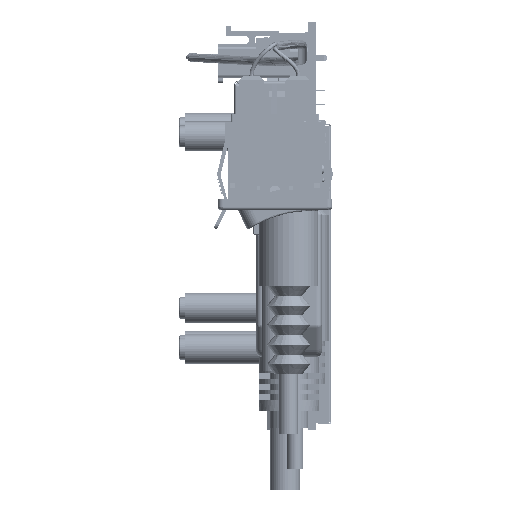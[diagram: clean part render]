
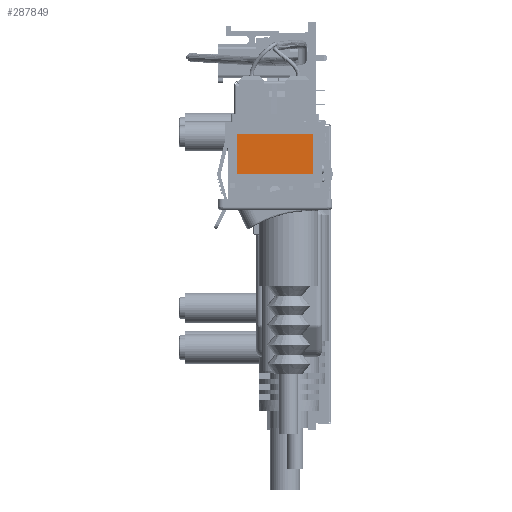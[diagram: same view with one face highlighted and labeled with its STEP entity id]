
A CAD part, left-side view. The second image highlights one B-rep face of the part: STEP entity #287849.
In plain terms, the highlighted planar face has unit normal (-1, 0, 0) as drawn and (0, -1, 0) by its records, which use the part's own axes.
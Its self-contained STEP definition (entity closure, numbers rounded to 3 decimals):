
#283035=DIRECTION('',(0.,0.,1.));
#283036=VECTOR('',#283035,6.9);
#283037=CARTESIAN_POINT('',(7.,-3.275,6.8));
#283038=LINE('',#283037,#283036);
#283047=DIRECTION('',(1.,0.,0.));
#283048=VECTOR('',#283047,13.4);
#283049=CARTESIAN_POINT('',(-6.7,-3.275,6.5));
#283050=LINE('',#283049,#283048);
#283059=DIRECTION('',(0.,0.,-1.));
#283060=VECTOR('',#283059,6.9);
#283061=CARTESIAN_POINT('',(-7.,-3.275,13.7));
#283062=LINE('',#283061,#283060);
#283071=DIRECTION('',(-1.,0.,0.));
#283072=VECTOR('',#283071,13.4);
#283073=CARTESIAN_POINT('',(6.7,-3.275,14.));
#283074=LINE('',#283073,#283072);
#283083=CARTESIAN_POINT('',(6.7,-3.275,6.8));
#283084=DIRECTION('',(0.,1.,0.));
#283085=DIRECTION('',(1.,0.,0.));
#283086=AXIS2_PLACEMENT_3D('',#283083,#283084,#283085);
#283088=CARTESIAN_POINT('',(-6.7,-3.275,6.8));
#283089=DIRECTION('',(0.,1.,0.));
#283090=DIRECTION('',(0.,0.,-1.));
#283091=AXIS2_PLACEMENT_3D('',#283088,#283089,#283090);
#283093=CARTESIAN_POINT('',(-6.7,-3.275,13.7));
#283094=DIRECTION('',(0.,1.,0.));
#283095=DIRECTION('',(-1.,0.,0.));
#283096=AXIS2_PLACEMENT_3D('',#283093,#283094,#283095);
#283098=CARTESIAN_POINT('',(6.7,-3.275,13.7));
#283099=DIRECTION('',(0.,1.,0.));
#283100=DIRECTION('',(0.,0.,1.));
#283101=AXIS2_PLACEMENT_3D('',#283098,#283099,#283100);
#283957=CARTESIAN_POINT('',(7.,-3.275,6.8));
#283958=VERTEX_POINT('',#283957);
#283959=CARTESIAN_POINT('',(7.,-3.275,13.7));
#283960=VERTEX_POINT('',#283959);
#283961=CARTESIAN_POINT('',(6.7,-3.275,6.5));
#283962=VERTEX_POINT('',#283961);
#283963=CARTESIAN_POINT('',(-6.7,-3.275,6.5));
#283964=VERTEX_POINT('',#283963);
#283965=CARTESIAN_POINT('',(-7.,-3.275,6.8));
#283966=VERTEX_POINT('',#283965);
#283967=CARTESIAN_POINT('',(-7.,-3.275,13.7));
#283968=VERTEX_POINT('',#283967);
#283969=CARTESIAN_POINT('',(-6.7,-3.275,14.));
#283970=VERTEX_POINT('',#283969);
#283971=CARTESIAN_POINT('',(6.7,-3.275,14.));
#283972=VERTEX_POINT('',#283971);
#287834=CARTESIAN_POINT('',(0.,-3.275,0.));
#287835=DIRECTION('',(0.,1.,0.));
#287836=DIRECTION('',(1.,0.,0.));
#287837=AXIS2_PLACEMENT_3D('',#287834,#287835,#287836);
#287838=PLANE('',#287837);
#287839=ORIENTED_EDGE('',*,*,#287744,.T.);
#287840=ORIENTED_EDGE('',*,*,#287760,.F.);
#287841=ORIENTED_EDGE('',*,*,#287772,.T.);
#287842=ORIENTED_EDGE('',*,*,#287786,.F.);
#287843=ORIENTED_EDGE('',*,*,#287800,.T.);
#287844=ORIENTED_EDGE('',*,*,#287814,.F.);
#287845=ORIENTED_EDGE('',*,*,#287827,.T.);
#287846=ORIENTED_EDGE('',*,*,#287729,.F.);
#287847=EDGE_LOOP('',(#287839,#287840,#287841,#287842,#287843,#287844,#287845,
#287846));
#287848=FACE_OUTER_BOUND('',#287847,.F.);
#287849=ADVANCED_FACE('',(#287848),#287838,.F.);
#283087=CIRCLE('',#283086,0.3);
#283092=CIRCLE('',#283091,0.3);
#283097=CIRCLE('',#283096,0.3);
#283102=CIRCLE('',#283101,0.3);
#287729=EDGE_CURVE('',#283958,#283960,#283038,.T.);
#287744=EDGE_CURVE('',#283958,#283962,#283087,.T.);
#287760=EDGE_CURVE('',#283964,#283962,#283050,.T.);
#287772=EDGE_CURVE('',#283964,#283966,#283092,.T.);
#287786=EDGE_CURVE('',#283968,#283966,#283062,.T.);
#287800=EDGE_CURVE('',#283968,#283970,#283097,.T.);
#287814=EDGE_CURVE('',#283972,#283970,#283074,.T.);
#287827=EDGE_CURVE('',#283972,#283960,#283102,.T.);
